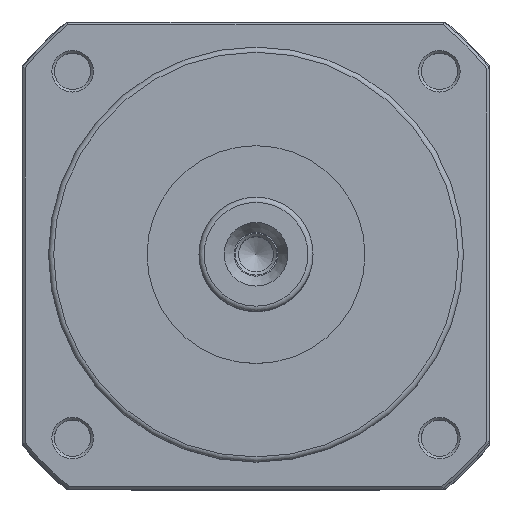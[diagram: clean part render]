
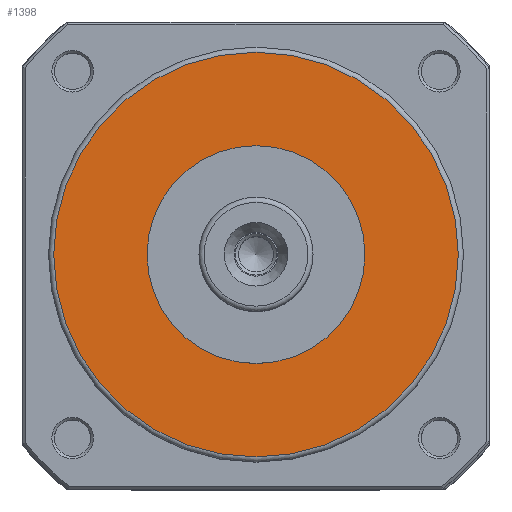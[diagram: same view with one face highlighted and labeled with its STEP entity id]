
A CAD part, top view. The second image highlights one B-rep face of the part: STEP entity #1398.
In plain terms, the highlighted planar face has unit normal (0, 0, 1).
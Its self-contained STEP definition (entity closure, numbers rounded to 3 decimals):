
#1398=ADVANCED_FACE('',(#1950,#1951),#1760,.T.);
#1760=PLANE('',#6193);
#1950=FACE_BOUND('',#2337,.T.);
#1951=FACE_BOUND('',#2338,.T.);
#2337=EDGE_LOOP('',(#3096));
#2338=EDGE_LOOP('',(#3097));
#3096=ORIENTED_EDGE('',*,*,#5120,.F.);
#3097=ORIENTED_EDGE('',*,*,#5121,.T.);
#4525=VERTEX_POINT('',#9062);
#4526=VERTEX_POINT('',#9064);
#5120=EDGE_CURVE('',#4525,#4525,#5785,.T.);
#5121=EDGE_CURVE('',#4526,#4526,#5786,.T.);
#5785=CIRCLE('',#6191,21.);
#5786=CIRCLE('',#6192,39.);
#6191=AXIS2_PLACEMENT_3D('',#9061,#7180,#7181);
#6192=AXIS2_PLACEMENT_3D('',#9063,#7182,#7183);
#6193=AXIS2_PLACEMENT_3D('',#9065,#7184,#7185);
#7180=DIRECTION('',(0.,0.,1.));
#7181=DIRECTION('',(1.,0.,0.));
#7182=DIRECTION('',(0.,0.,1.));
#7183=DIRECTION('',(1.,0.,0.));
#7184=DIRECTION('',(0.,0.,1.));
#7185=DIRECTION('',(1.,0.,0.));
#9061=CARTESIAN_POINT('',(0.,0.,105.5));
#9062=CARTESIAN_POINT('',(21.,0.,105.5));
#9063=CARTESIAN_POINT('',(0.,0.,105.5));
#9064=CARTESIAN_POINT('',(39.,0.,105.5));
#9065=CARTESIAN_POINT('',(0.,0.,105.5));
